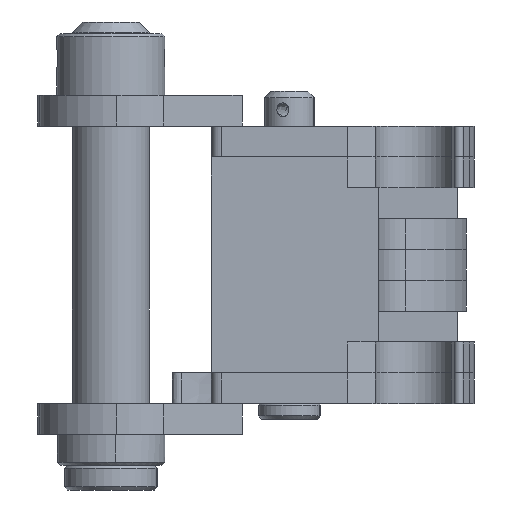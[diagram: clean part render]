
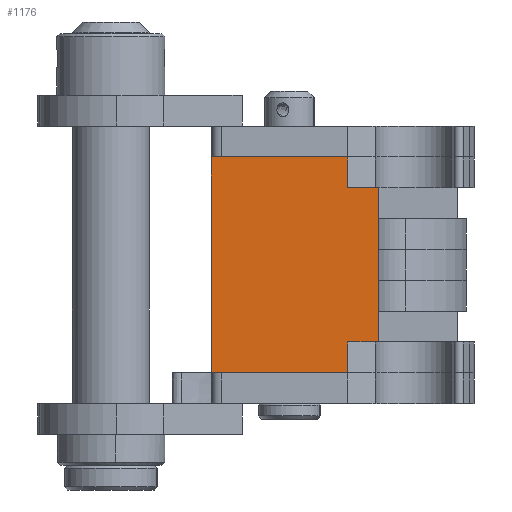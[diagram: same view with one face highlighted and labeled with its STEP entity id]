
A CAD part, left-side view. The second image highlights one B-rep face of the part: STEP entity #1176.
In plain terms, the highlighted planar face has unit normal (-1, 0, 0).
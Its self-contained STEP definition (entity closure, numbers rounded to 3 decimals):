
#657=PLANE('',#5998);
#1176=ADVANCED_FACE('NONE',(#1491),#657,.F.);
#1491=FACE_OUTER_BOUND('',#1825,.T.);
#1825=EDGE_LOOP('',(#2703,#2704,#2705,#2706,#2707,#2708,#2709,#2710));
#2703=ORIENTED_EDGE('',*,*,#4454,.F.);
#2704=ORIENTED_EDGE('',*,*,#4455,.F.);
#2705=ORIENTED_EDGE('',*,*,#4456,.F.);
#2706=ORIENTED_EDGE('',*,*,#4457,.F.);
#2707=ORIENTED_EDGE('',*,*,#4458,.F.);
#2708=ORIENTED_EDGE('',*,*,#4459,.F.);
#2709=ORIENTED_EDGE('',*,*,#4460,.F.);
#2710=ORIENTED_EDGE('',*,*,#4461,.F.);
#3843=VERTEX_POINT('',#11921);
#3844=VERTEX_POINT('',#11922);
#3845=VERTEX_POINT('',#11924);
#3846=VERTEX_POINT('',#11926);
#3847=VERTEX_POINT('',#11928);
#3848=VERTEX_POINT('',#11930);
#3849=VERTEX_POINT('',#11932);
#3850=VERTEX_POINT('',#11934);
#4454=EDGE_CURVE('NONE',#3843,#3844,#5066,.T.);
#4455=EDGE_CURVE('NONE',#3845,#3843,#5067,.T.);
#4456=EDGE_CURVE('NONE',#3846,#3845,#5068,.T.);
#4457=EDGE_CURVE('NONE',#3847,#3846,#5069,.T.);
#4458=EDGE_CURVE('NONE',#3848,#3847,#5070,.T.);
#4459=EDGE_CURVE('NONE',#3849,#3848,#5071,.T.);
#4460=EDGE_CURVE('NONE',#3850,#3849,#5072,.T.);
#4461=EDGE_CURVE('NONE',#3844,#3850,#5073,.T.);
#5066=LINE('',#11920,#5472);
#5067=LINE('',#11923,#5473);
#5068=LINE('',#11925,#5474);
#5069=LINE('',#11927,#5475);
#5070=LINE('',#11929,#5476);
#5071=LINE('',#11931,#5477);
#5072=LINE('',#11933,#5478);
#5073=LINE('',#11935,#5479);
#5472=VECTOR('',#7005,1.);
#5473=VECTOR('',#7006,1.);
#5474=VECTOR('',#7007,1.);
#5475=VECTOR('',#7008,1.);
#5476=VECTOR('',#7009,1.);
#5477=VECTOR('',#7010,1.);
#5478=VECTOR('',#7011,1.);
#5479=VECTOR('',#7012,1.);
#5998=AXIS2_PLACEMENT_3D('',#11936,#7013,#7014);
#7005=DIRECTION('',(0.,-1.,0.));
#7006=DIRECTION('',(0.,0.,1.));
#7007=DIRECTION('',(0.,1.,0.));
#7008=DIRECTION('',(0.,0.,-1.));
#7009=DIRECTION('',(0.,1.,0.));
#7010=DIRECTION('',(0.,0.,-1.));
#7011=DIRECTION('',(0.,-1.,0.));
#7012=DIRECTION('',(0.,0.,-1.));
#7013=DIRECTION('',(1.,0.,0.));
#7014=DIRECTION('',(0.,0.,-1.));
#11920=CARTESIAN_POINT('',(-67.653,-50.055,280.859));
#11921=CARTESIAN_POINT('',(-67.653,5.288,280.859));
#11922=CARTESIAN_POINT('',(-67.653,-38.958,280.859));
#11923=CARTESIAN_POINT('',(-67.653,5.288,279.609));
#11924=CARTESIAN_POINT('',(-67.653,5.288,210.859));
#11925=CARTESIAN_POINT('',(-67.653,-50.055,210.859));
#11926=CARTESIAN_POINT('',(-67.653,-38.958,210.859));
#11927=CARTESIAN_POINT('',(-67.653,-38.958,223.359));
#11928=CARTESIAN_POINT('',(-67.653,-38.958,220.859));
#11929=CARTESIAN_POINT('',(-67.653,-50.055,220.859));
#11930=CARTESIAN_POINT('',(-67.653,-48.957,220.859));
#11931=CARTESIAN_POINT('',(-67.653,-48.957,268.359));
#11932=CARTESIAN_POINT('',(-67.653,-48.957,270.859));
#11933=CARTESIAN_POINT('',(-67.653,-50.055,270.859));
#11934=CARTESIAN_POINT('',(-67.653,-38.958,270.859));
#11935=CARTESIAN_POINT('',(-67.653,-38.958,279.609));
#11936=CARTESIAN_POINT('',(-67.653,-53.357,291.215));
